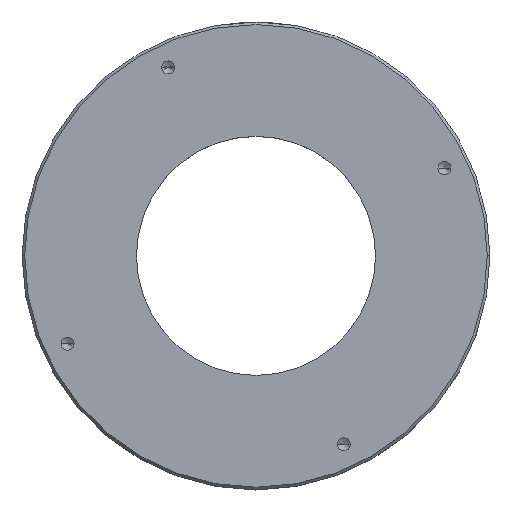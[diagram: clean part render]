
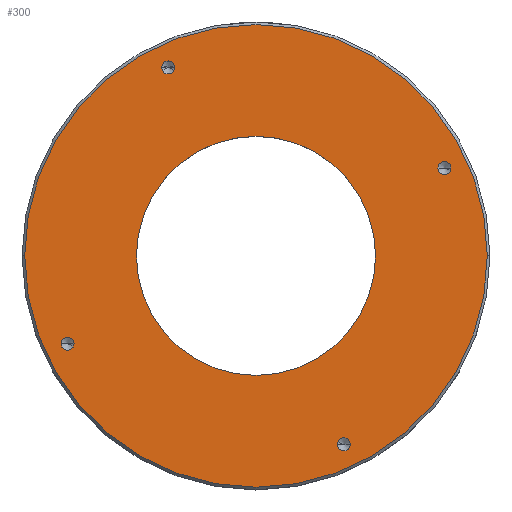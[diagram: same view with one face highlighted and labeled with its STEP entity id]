
A CAD part, top view. The second image highlights one B-rep face of the part: STEP entity #300.
In plain terms, the highlighted planar face has unit normal (0, 0, 1).
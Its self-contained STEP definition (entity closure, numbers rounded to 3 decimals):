
#4 = DIRECTION ( 'NONE',  ( 1., 0., 0. ) ) ;
#10 = CARTESIAN_POINT ( 'NONE',  ( 35.002, 16.905, 23. ) ) ;
#18 = VERTEX_POINT ( 'NONE', #565 ) ;
#27 = CARTESIAN_POINT ( 'NONE',  ( -37.502, -16.905, 23. ) ) ;
#30 = ORIENTED_EDGE ( 'NONE', *, *, #308, .F. ) ;
#46 = DIRECTION ( 'NONE',  ( 1., 0., 0. ) ) ;
#48 = VERTEX_POINT ( 'NONE', #896 ) ;
#53 = VERTEX_POINT ( 'NONE', #798 ) ;
#54 = DIRECTION ( 'NONE',  ( 1., 0., 0. ) ) ;
#62 = DIRECTION ( 'NONE',  ( 0., 0., 1. ) ) ;
#73 = DIRECTION ( 'NONE',  ( 1., 0., 0. ) ) ;
#77 = AXIS2_PLACEMENT_3D ( 'NONE', #239, #145, #54 ) ;
#89 = AXIS2_PLACEMENT_3D ( 'NONE', #727, #637, #547 ) ;
#94 = EDGE_LOOP ( 'NONE', ( #588, #131 ) ) ;
#96 = DIRECTION ( 'NONE',  ( 0., 0., 1. ) ) ;
#106 = AXIS2_PLACEMENT_3D ( 'NONE', #433, #339, #246 ) ;
#108 = ORIENTED_EDGE ( 'NONE', *, *, #509, .F. ) ;
#110 = CIRCLE ( 'NONE', #640, 1.25 ) ;
#115 = AXIS2_PLACEMENT_3D ( 'NONE', #192, #96, #4 ) ;
#117 = AXIS2_PLACEMENT_3D ( 'NONE', #260, #172, #73 ) ;
#123 = ORIENTED_EDGE ( 'NONE', *, *, #858, .F. ) ;
#127 = FACE_BOUND ( 'NONE', #94, .T. ) ;
#131 = ORIENTED_EDGE ( 'NONE', *, *, #170, .F. ) ;
#134 = DIRECTION ( 'NONE',  ( 0., 0., 1. ) ) ;
#141 = CARTESIAN_POINT ( 'NONE',  ( 15.655, -36.252, 23. ) ) ;
#145 = DIRECTION ( 'NONE',  ( 0., 0., 1. ) ) ;
#156 = CARTESIAN_POINT ( 'NONE',  ( -16.905, 36.252, 23. ) ) ;
#163 = CARTESIAN_POINT ( 'NONE',  ( -44.5, 0., 23. ) ) ;
#170 = EDGE_CURVE ( 'NONE', #321, #48, #528, .T. ) ;
#172 = DIRECTION ( 'NONE',  ( 0., 0., 1. ) ) ;
#179 = CIRCLE ( 'NONE', #707, 1.25 ) ;
#189 = ORIENTED_EDGE ( 'NONE', *, *, #836, .F. ) ;
#192 = CARTESIAN_POINT ( 'NONE',  ( 16.905, -36.252, 23. ) ) ;
#197 = FACE_OUTER_BOUND ( 'NONE', #615, .T. ) ;
#202 = FACE_BOUND ( 'NONE', #877, .T. ) ;
#230 = CARTESIAN_POINT ( 'NONE',  ( 0., 0., 23. ) ) ;
#239 = CARTESIAN_POINT ( 'NONE',  ( -16.905, 36.252, 23. ) ) ;
#246 = DIRECTION ( 'NONE',  ( 1., 0., 0. ) ) ;
#249 = CIRCLE ( 'NONE', #261, 44.5 ) ;
#260 = CARTESIAN_POINT ( 'NONE',  ( 0., 0., 23. ) ) ;
#261 = AXIS2_PLACEMENT_3D ( 'NONE', #847, #756, #664 ) ;
#269 = VERTEX_POINT ( 'NONE', #141 ) ;
#294 = VERTEX_POINT ( 'NONE', #27 ) ;
#299 = FACE_BOUND ( 'NONE', #580, .T. ) ;
#300 = ADVANCED_FACE ( 'NONE', ( #299, #401, #202, #481, #197, #127 ), #751, .T. ) ;
#308 = EDGE_CURVE ( 'NONE', #294, #852, #387, .T. ) ;
#309 = DIRECTION ( 'NONE',  ( 1., 0., 0. ) ) ;
#314 = AXIS2_PLACEMENT_3D ( 'NONE', #659, #564, #474 ) ;
#315 = CIRCLE ( 'NONE', #106, 44.5 ) ;
#321 = VERTEX_POINT ( 'NONE', #357 ) ;
#329 = CARTESIAN_POINT ( 'NONE',  ( 37.502, 16.905, 23. ) ) ;
#339 = DIRECTION ( 'NONE',  ( 0., 0., 1. ) ) ;
#350 = DIRECTION ( 'NONE',  ( 1., 0., 0. ) ) ;
#357 = CARTESIAN_POINT ( 'NONE',  ( 23., 0., 23. ) ) ;
#387 = CIRCLE ( 'NONE', #89, 1.25 ) ;
#390 = CIRCLE ( 'NONE', #850, 1.25 ) ;
#401 = FACE_BOUND ( 'NONE', #857, .T. ) ;
#407 = DIRECTION ( 'NONE',  ( 0., 0., 1. ) ) ;
#431 = VERTEX_POINT ( 'NONE', #10 ) ;
#433 = CARTESIAN_POINT ( 'NONE',  ( 0., 0., 23. ) ) ;
#443 = DIRECTION ( 'NONE',  ( 0., 0., 1. ) ) ;
#449 = EDGE_CURVE ( 'NONE', #18, #668, #315, .T. ) ;
#463 = CIRCLE ( 'NONE', #115, 1.25 ) ;
#474 = DIRECTION ( 'NONE',  ( 1., 0., 0. ) ) ;
#481 = FACE_BOUND ( 'NONE', #738, .T. ) ;
#482 = DIRECTION ( 'NONE',  ( 1., 0., 0. ) ) ;
#497 = ORIENTED_EDGE ( 'NONE', *, *, #579, .F. ) ;
#500 = CARTESIAN_POINT ( 'NONE',  ( -36.252, -16.905, 23. ) ) ;
#509 = EDGE_CURVE ( 'NONE', #431, #723, #179, .T. ) ;
#515 = AXIS2_PLACEMENT_3D ( 'NONE', #156, #62, #885 ) ;
#528 = CIRCLE ( 'NONE', #841, 23. ) ;
#536 = CIRCLE ( 'NONE', #77, 1.25 ) ;
#541 = CARTESIAN_POINT ( 'NONE',  ( 16.905, -36.252, 23. ) ) ;
#544 = VERTEX_POINT ( 'NONE', #627 ) ;
#547 = DIRECTION ( 'NONE',  ( 1., 0., 0. ) ) ;
#564 = DIRECTION ( 'NONE',  ( 0., 0., 1. ) ) ;
#565 = CARTESIAN_POINT ( 'NONE',  ( 44.5, 0., 23. ) ) ;
#570 = ORIENTED_EDGE ( 'NONE', *, *, #786, .F. ) ;
#573 = DIRECTION ( 'NONE',  ( 0., 0., 1. ) ) ;
#576 = AXIS2_PLACEMENT_3D ( 'NONE', #541, #443, #350 ) ;
#579 = EDGE_CURVE ( 'NONE', #544, #53, #737, .T. ) ;
#580 = EDGE_LOOP ( 'NONE', ( #123, #30 ) ) ;
#588 = ORIENTED_EDGE ( 'NONE', *, *, #794, .F. ) ;
#615 = EDGE_LOOP ( 'NONE', ( #884, #772 ) ) ;
#616 = ORIENTED_EDGE ( 'NONE', *, *, #726, .F. ) ;
#627 = CARTESIAN_POINT ( 'NONE',  ( -15.655, 36.252, 23. ) ) ;
#630 = CARTESIAN_POINT ( 'NONE',  ( 18.155, -36.252, 23. ) ) ;
#637 = DIRECTION ( 'NONE',  ( 0., 0., 1. ) ) ;
#640 = AXIS2_PLACEMENT_3D ( 'NONE', #500, #407, #309 ) ;
#659 = CARTESIAN_POINT ( 'NONE',  ( 0., 0., 23. ) ) ;
#661 = VERTEX_POINT ( 'NONE', #630 ) ;
#662 = EDGE_CURVE ( 'NONE', #661, #269, #670, .T. ) ;
#664 = DIRECTION ( 'NONE',  ( 1., 0., 0. ) ) ;
#668 = VERTEX_POINT ( 'NONE', #163 ) ;
#670 = CIRCLE ( 'NONE', #576, 1.25 ) ;
#672 = CARTESIAN_POINT ( 'NONE',  ( 36.252, 16.905, 23. ) ) ;
#681 = DIRECTION ( 'NONE',  ( 1., 0., 0. ) ) ;
#707 = AXIS2_PLACEMENT_3D ( 'NONE', #672, #573, #482 ) ;
#723 = VERTEX_POINT ( 'NONE', #329 ) ;
#726 = EDGE_CURVE ( 'NONE', #723, #431, #390, .T. ) ;
#727 = CARTESIAN_POINT ( 'NONE',  ( -36.252, -16.905, 23. ) ) ;
#737 = CIRCLE ( 'NONE', #515, 1.25 ) ;
#738 = EDGE_LOOP ( 'NONE', ( #497, #189 ) ) ;
#739 = CIRCLE ( 'NONE', #117, 23. ) ;
#751 = PLANE ( 'NONE',  #314 ) ;
#756 = DIRECTION ( 'NONE',  ( 0., 0., 1. ) ) ;
#769 = DIRECTION ( 'NONE',  ( 0., 0., 1. ) ) ;
#772 = ORIENTED_EDGE ( 'NONE', *, *, #449, .T. ) ;
#773 = CARTESIAN_POINT ( 'NONE',  ( -35.002, -16.905, 23. ) ) ;
#781 = ORIENTED_EDGE ( 'NONE', *, *, #662, .F. ) ;
#786 = EDGE_CURVE ( 'NONE', #269, #661, #463, .T. ) ;
#794 = EDGE_CURVE ( 'NONE', #48, #321, #739, .T. ) ;
#798 = CARTESIAN_POINT ( 'NONE',  ( -18.155, 36.252, 23. ) ) ;
#836 = EDGE_CURVE ( 'NONE', #53, #544, #536, .T. ) ;
#841 = AXIS2_PLACEMENT_3D ( 'NONE', #230, #134, #46 ) ;
#847 = CARTESIAN_POINT ( 'NONE',  ( 0., 0., 23. ) ) ;
#850 = AXIS2_PLACEMENT_3D ( 'NONE', #864, #769, #681 ) ;
#852 = VERTEX_POINT ( 'NONE', #773 ) ;
#857 = EDGE_LOOP ( 'NONE', ( #781, #570 ) ) ;
#858 = EDGE_CURVE ( 'NONE', #852, #294, #110, .T. ) ;
#863 = EDGE_CURVE ( 'NONE', #668, #18, #249, .T. ) ;
#864 = CARTESIAN_POINT ( 'NONE',  ( 36.252, 16.905, 23. ) ) ;
#877 = EDGE_LOOP ( 'NONE', ( #616, #108 ) ) ;
#884 = ORIENTED_EDGE ( 'NONE', *, *, #863, .T. ) ;
#885 = DIRECTION ( 'NONE',  ( 1., 0., 0. ) ) ;
#896 = CARTESIAN_POINT ( 'NONE',  ( -23., 0., 23. ) ) ;
